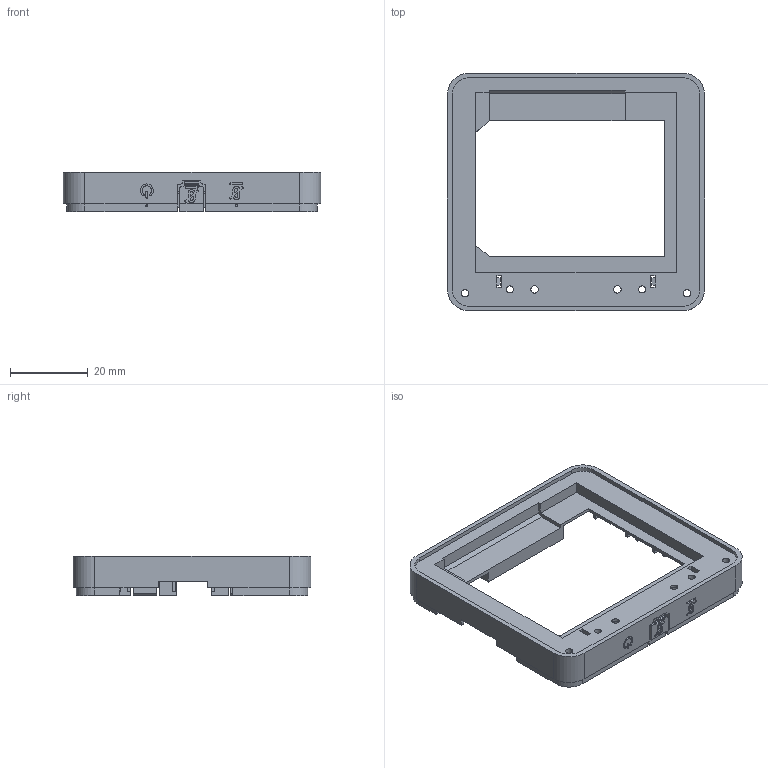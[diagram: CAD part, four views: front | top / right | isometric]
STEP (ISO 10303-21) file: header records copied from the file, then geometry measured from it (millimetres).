
FILE_DESCRIPTION (( 'STEP AP203' ), '1' );
FILE_NAME ('ESP32-S3-BOX-3_top_case.STEP', '2023-09-19T07:17:01', ( 'Windows User' ), ( 'P R C' ), 'SwSTEP 2.0', 'SolidWorks 2017', '' );
FILE_SCHEMA (( 'CONFIG_CONTROL_DESIGN' ));
Length unit declared in the file: millimetre
Products named in the file (1): ESP32-S3-BOX-3_top_case
Bounding box: 66 x 61 x 10.1 mm (x, y, z)
Volume: 7110.8 mm3; surface area: 11618.5 mm2
Topology: 1 solids, 1 shells, 817 faces, 2252 edges, 1474 vertices
Faces by surface type: plane 558, cylinder 211, bspline 44, torus 4
Entity records: 28037 total; most frequent: CARTESIAN_POINT 7190, ORIENTED_EDGE 4504, DIRECTION 4038, EDGE_CURVE 2252, VECTOR 1754, LINE 1754, VERTEX_POINT 1474, AXIS2_PLACEMENT_3D 1142
